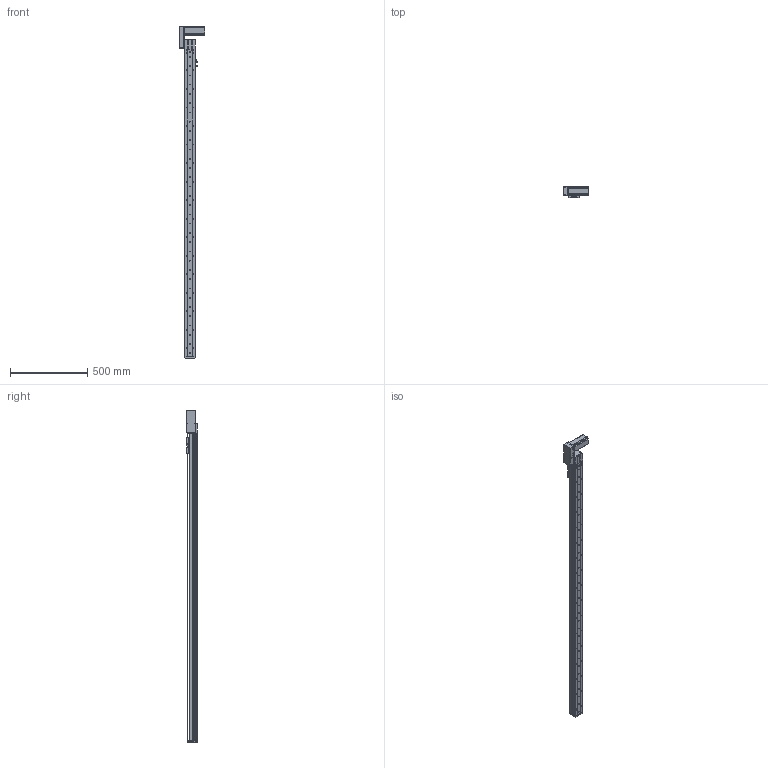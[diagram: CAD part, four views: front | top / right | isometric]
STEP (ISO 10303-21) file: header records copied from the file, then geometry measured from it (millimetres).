
FILE_DESCRIPTION (( 'STEP AP214' ), '1' );
FILE_NAME ('KSD68BS-S1800-MRB-CM.STEP', '2019-10-19T09:41:58', ( '微软用户' ), ( '微软中国' ), 'SwSTEP 2.0', 'SolidWorks 2014', '' );
FILE_SCHEMA (( 'AUTOMOTIVE_DESIGN' ));
Length unit declared in the file: millimetre
Products named in the file (11): KSD68BS半封闭同步带传动导轨座; U倰嫖萇EEㄜSX672; 台达ECMA－C20604AS伺服电机（400W); KSD68BS 1800俴最菁啣圉猾敕; KSD68BS-S1800-MRB-CM; 悵誘欶奻狟殏; 68宽马达安装板连板上折同步带; 68宽单导轨半封闭同步带主动轮座右; 68单导轨同步带半封闭端板; KSD68BS 1800俴最裔啣圉猾敕; 覜茼え68遵圉猾敕
Assembly tree (11 placements, depth 2):
  KSD68BS-S1800-MRB-CM
    KSD68BS 1800俴最菁啣圉猾敕
    台达ECMA－C20604AS伺服电机（400W)
    U倰嫖萇EEㄜSX672  x2
    KSD68BS半封闭同步带传动导轨座
    覜茼え68遵圉猾敕
    KSD68BS 1800俴最裔啣圉猾敕
    68单导轨同步带半封闭端板
    68宽单导轨半封闭同步带主动轮座右
    68宽马达安装板连板上折同步带
    悵誘欶奻狟殏
Bounding box: 167.2 x 70.5 x 2149.5 mm (x, y, z)
Volume: 3378050.4 mm3; surface area: 1266464.5 mm2
Topology: 12 solids, 12 shells, 1542 faces, 4546 edges, 2960 vertices
Faces by surface type: cylinder 844, plane 615, cone 83
Entity records: 64785 total; most frequent: CARTESIAN_POINT 13177, ORIENTED_EDGE 8408, DIRECTION 8094, EDGE_CURVE 4204, AXIS2_PLACEMENT_3D 2921, VERTEX_POINT 2772, VECTOR 2252, LINE 2252
